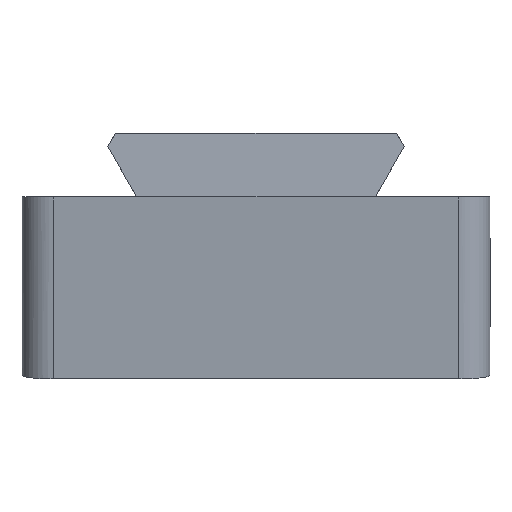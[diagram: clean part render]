
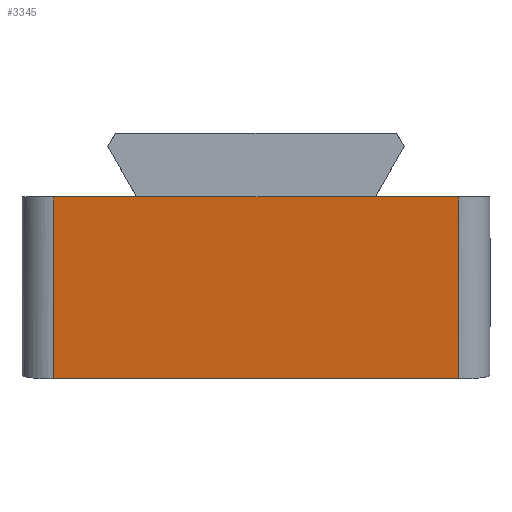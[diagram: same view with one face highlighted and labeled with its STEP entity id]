
A CAD part, left-side view. The second image highlights one B-rep face of the part: STEP entity #3345.
In plain terms, the highlighted planar face has unit normal (-0.993, 0, -0.122).
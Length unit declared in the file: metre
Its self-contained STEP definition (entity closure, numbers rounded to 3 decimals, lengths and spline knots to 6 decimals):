
#460=ORIENTED_EDGE('',*,*,#1290,.T.);
#461=ORIENTED_EDGE('',*,*,#1417,.T.);
#462=ORIENTED_EDGE('',*,*,#1220,.F.);
#463=ORIENTED_EDGE('',*,*,#1418,.T.);
#464=ORIENTED_EDGE('',*,*,#1302,.T.);
#465=ORIENTED_EDGE('',*,*,#1412,.T.);
#1220=EDGE_CURVE('',#1717,#1718,#2048,.T.);
#1290=EDGE_CURVE('',#1778,#1785,#2093,.T.);
#1302=EDGE_CURVE('',#1794,#1770,#2099,.T.);
#1412=EDGE_CURVE('',#1770,#1778,#2169,.T.);
#1417=EDGE_CURVE('',#1785,#1718,#2170,.T.);
#1418=EDGE_CURVE('',#1717,#1794,#2171,.F.);
#1717=VERTEX_POINT('',#4632);
#1718=VERTEX_POINT('',#4634);
#1770=VERTEX_POINT('',#4745);
#1778=VERTEX_POINT('',#4763);
#1785=VERTEX_POINT('',#4780);
#1794=VERTEX_POINT('',#4802);
#2048=LINE('',#4633,#2405);
#2093=LINE('',#4781,#2450);
#2099=LINE('',#4801,#2456);
#2169=LINE('',#5064,#2526);
#2170=LINE('',#5076,#2527);
#2171=LINE('',#5077,#2528);
#2405=VECTOR('',#3784,1.);
#2450=VECTOR('',#3899,1.);
#2456=VECTOR('',#3917,1.);
#2526=VECTOR('',#4035,1.);
#2527=VECTOR('',#4054,1.);
#2528=VECTOR('',#4055,1.);
#2801=EDGE_LOOP('',(#460,#461,#462,#463,#464,#465));
#3022=FACE_BOUND('',#2801,.T.);
#3218=PLANE('',#3601);
#3345=ADVANCED_FACE('',(#3022),#3218,.F.);
#3601=AXIS2_PLACEMENT_3D('',#5075,#4052,#4053);
#3784=DIRECTION('',(0.,1.,0.));
#3899=DIRECTION('',(0.,1.,0.));
#3917=DIRECTION('',(0.,1.,0.));
#4035=DIRECTION('',(0.,1.,0.));
#4052=DIRECTION('',(0.993,0.,0.122));
#4053=DIRECTION('',(0.122,0.,-0.993));
#4054=DIRECTION('',(0.122,0.,-0.993));
#4055=DIRECTION('',(0.122,0.,-0.993));
#4632=CARTESIAN_POINT('',(0.001432,-0.013,-0.011666));
#4633=CARTESIAN_POINT('',(0.001432,-0.015,-0.011666));
#4634=CARTESIAN_POINT('',(0.001432,0.013,-0.011666));
#4745=CARTESIAN_POINT('',(0.,-0.007695,0.));
#4763=CARTESIAN_POINT('',(0.,0.007695,0.));
#4780=CARTESIAN_POINT('',(0.,0.013,0.));
#4781=CARTESIAN_POINT('',(0.,-0.015,0.));
#4801=CARTESIAN_POINT('',(0.,-0.015,0.));
#4802=CARTESIAN_POINT('',(0.,-0.013,0.));
#5064=CARTESIAN_POINT('',(0.,0.,0.));
#5075=CARTESIAN_POINT('',(0.000716,-0.015,-0.005833));
#5076=CARTESIAN_POINT('',(0.000716,0.013,-0.005833));
#5077=CARTESIAN_POINT('',(0.,-0.013,0.));
